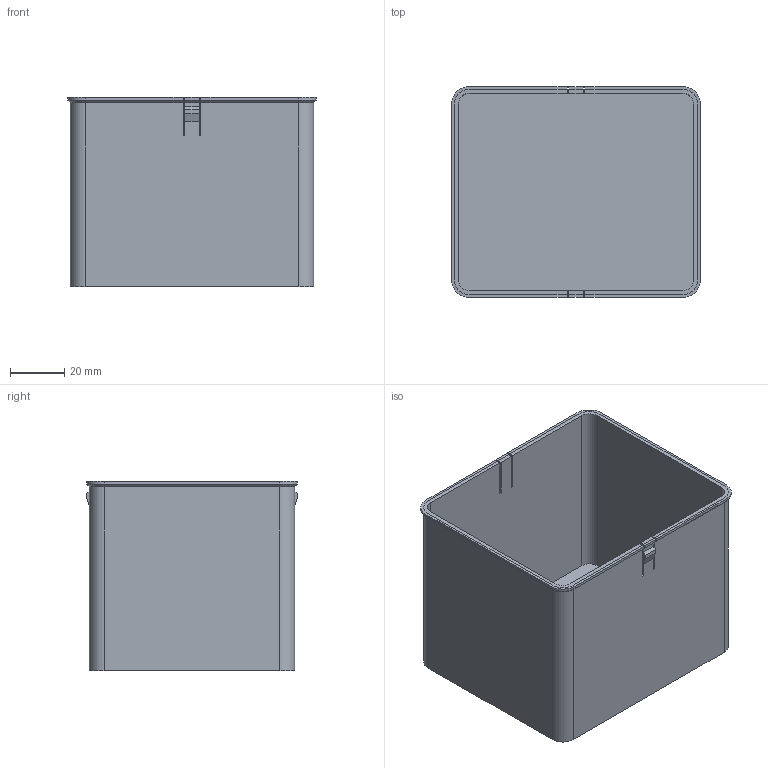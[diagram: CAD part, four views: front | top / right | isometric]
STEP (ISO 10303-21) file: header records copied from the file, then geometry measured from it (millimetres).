
FILE_DESCRIPTION(('Open CASCADE Model'),'2;1');
FILE_NAME('Open CASCADE Shape Model','2026-11-02T08:10:54',('Author'),( 'Open CASCADE'),'Open CASCADE STEP processor 7.8','Open CASCADE 7.8' ,'Unknown');
FILE_SCHEMA(('AUTOMOTIVE_DESIGN { 1 0 10303 214 1 1 1 1 }'));
Length unit declared in the file: millimetre
Products named in the file (1): Open CASCADE STEP translator 7.8 3
Bounding box: 92 x 78 x 70 mm (x, y, z)
Volume: 46520.1 mm3; surface area: 58099.8 mm2
Topology: 1 solids, 1 shells, 74 faces, 200 edges, 128 vertices
Faces by surface type: plane 58, cylinder 12, cone 4
Entity records: 4900 total; most frequent: CARTESIAN_POINT 887, DIRECTION 744, LINE 524, VECTOR 524, ORIENTED_EDGE 400, PCURVE 400, DEFINITIONAL_REPRESENTATION 400, EDGE_CURVE 200
